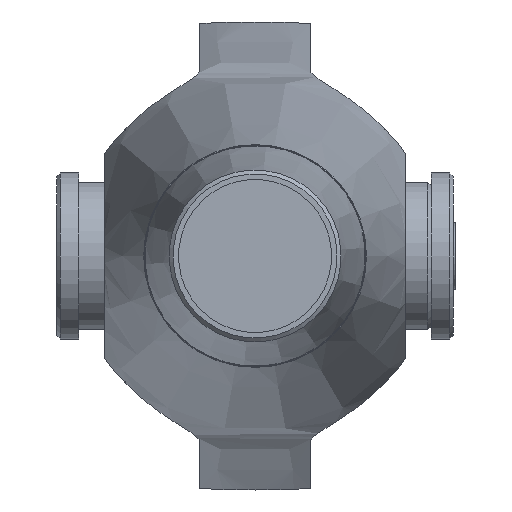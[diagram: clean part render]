
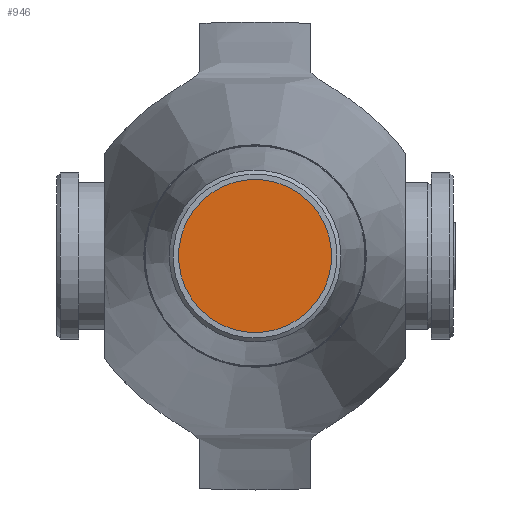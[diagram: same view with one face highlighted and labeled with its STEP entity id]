
A CAD part, left-side view. The second image highlights one B-rep face of the part: STEP entity #946.
In plain terms, the highlighted planar face has unit normal (-1, 0, 0).
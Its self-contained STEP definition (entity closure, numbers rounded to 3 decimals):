
#71=PLANE('',#1049);
#104=FACE_OUTER_BOUND('',#161,.T.);
#161=EDGE_LOOP('',(#649,#650));
#320=CIRCLE('',#1047,41.5);
#321=CIRCLE('',#1048,41.5);
#386=VERTEX_POINT('',#1488);
#387=VERTEX_POINT('',#1490);
#487=EDGE_CURVE('',#387,#386,#320,.T.);
#488=EDGE_CURVE('',#386,#387,#321,.T.);
#649=ORIENTED_EDGE('',*,*,#487,.T.);
#650=ORIENTED_EDGE('',*,*,#488,.T.);
#946=ADVANCED_FACE('',(#104),#71,.T.);
#1047=AXIS2_PLACEMENT_3D('',#1491,#1211,#1212);
#1048=AXIS2_PLACEMENT_3D('',#1492,#1213,#1214);
#1049=AXIS2_PLACEMENT_3D('',#1493,#1215,#1216);
#1211=DIRECTION('center_axis',(-1.,0.,0.));
#1212=DIRECTION('ref_axis',(0.,-0.995,-0.1));
#1213=DIRECTION('center_axis',(-1.,0.,0.));
#1214=DIRECTION('ref_axis',(0.,-0.995,-0.1));
#1215=DIRECTION('center_axis',(-1.,0.,0.));
#1216=DIRECTION('ref_axis',(0.,-0.995,-0.1));
#1488=CARTESIAN_POINT('',(-828.5,-4.148,41.292));
#1490=CARTESIAN_POINT('',(-828.5,4.148,-41.292));
#1491=CARTESIAN_POINT('Origin',(-828.5,0.,
0.));
#1492=CARTESIAN_POINT('Origin',(-828.5,0.,
0.));
#1493=CARTESIAN_POINT('Origin',(-828.5,0.,
0.));
